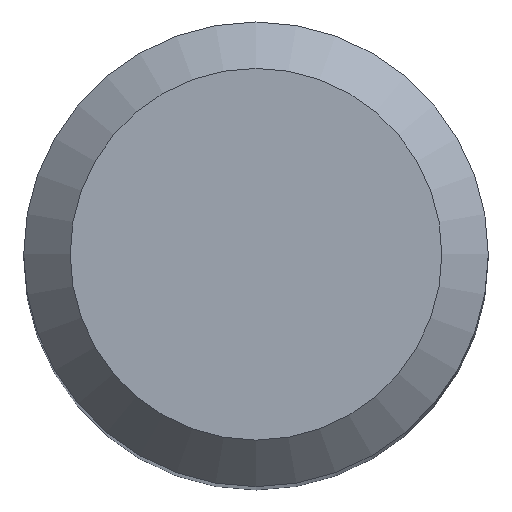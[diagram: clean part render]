
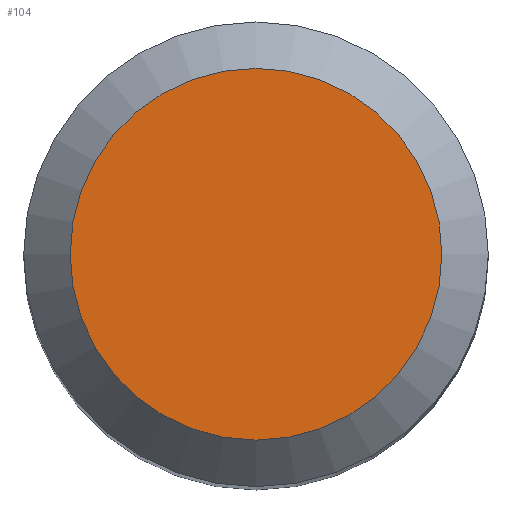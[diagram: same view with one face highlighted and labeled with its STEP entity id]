
A CAD part, top view. The second image highlights one B-rep face of the part: STEP entity #104.
In plain terms, the highlighted planar face has unit normal (0, 0, 1).
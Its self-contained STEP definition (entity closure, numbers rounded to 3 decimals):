
#88=CARTESIAN_POINT('',(4.0,0.0,90.0));
#89=DIRECTION('',(0.0,0.0,1.0));
#90=DIRECTION('',(1.0,0.0,0.0));
#91=AXIS2_PLACEMENT_3D('',#88,#89,#90);
#92=PLANE('',#91);
#93=CARTESIAN_POINT('',(-4.0,0.0,90.0));
#94=VERTEX_POINT('',#93);
#95=CARTESIAN_POINT('',(0.0,0.0,90.0));
#96=DIRECTION('',(0.0,0.0,-1.0));
#97=DIRECTION('',(-1.0,0.0,0.0));
#98=AXIS2_PLACEMENT_3D('',#95,#96,#97);
#99=CIRCLE('',#98,4.0);
#100=EDGE_CURVE('',#94,#94,#99,.T.);
#101=ORIENTED_EDGE('',*,*,#100,.F.);
#102=EDGE_LOOP('',(#101));
#103=FACE_OUTER_BOUND('',#102,.T.);
#104=ADVANCED_FACE('',(#103),#92,.T.);
